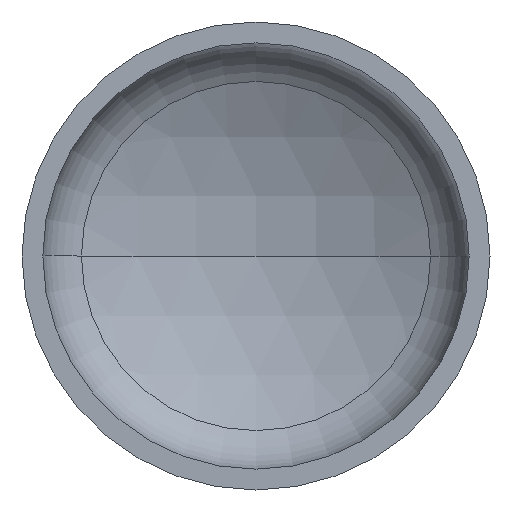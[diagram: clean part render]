
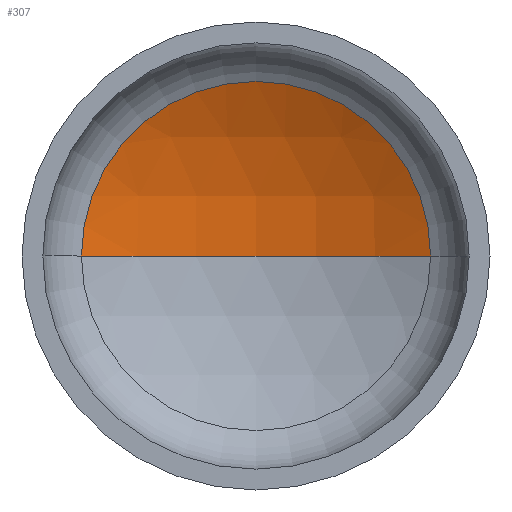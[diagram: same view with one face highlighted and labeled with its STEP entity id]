
A CAD part, front view. The second image highlights one B-rep face of the part: STEP entity #307.
In plain terms, the highlighted spherical face has radius 1760 mm.
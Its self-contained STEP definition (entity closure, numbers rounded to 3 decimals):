
#9 = AXIS2_PLACEMENT_3D ( 'NONE', #91, #398, #144 ) ;
#12 = VERTEX_POINT ( 'NONE', #246 ) ;
#22 = AXIS2_PLACEMENT_3D ( 'NONE', #197, #216, #207 ) ;
#24 = EDGE_LOOP ( 'NONE', ( #156, #155, #124 ) ) ;
#30 = AXIS2_PLACEMENT_3D ( 'NONE', #298, #255, #385 ) ;
#63 = SPHERICAL_SURFACE ( 'NONE', #9, 1760. ) ;
#82 = VERTEX_POINT ( 'NONE', #192 ) ;
#91 = CARTESIAN_POINT ( 'NONE',  ( 0., -1156.247, 0. ) ) ;
#103 = EDGE_CURVE ( 'NONE', #176, #12, #323, .T. ) ;
#117 = DIRECTION ( 'NONE',  ( 0., 0., 1. ) ) ;
#124 = ORIENTED_EDGE ( 'NONE', *, *, #103, .T. ) ;
#136 = EDGE_CURVE ( 'NONE', #82, #176, #383, .T. ) ;
#144 = DIRECTION ( 'NONE',  ( -1., 0., 0. ) ) ;
#155 = ORIENTED_EDGE ( 'NONE', *, *, #136, .T. ) ;
#156 = ORIENTED_EDGE ( 'NONE', *, *, #347, .F. ) ;
#176 = VERTEX_POINT ( 'NONE', #251 ) ;
#192 = CARTESIAN_POINT ( 'NONE',  ( 0., 603.753, 0. ) ) ;
#197 = CARTESIAN_POINT ( 'NONE',  ( 0., -1156.247, 0. ) ) ;
#207 = DIRECTION ( 'NONE',  ( -1., 0., 0. ) ) ;
#216 = DIRECTION ( 'NONE',  ( 0., 0., -1. ) ) ;
#246 = CARTESIAN_POINT ( 'NONE',  ( -820.507, 400.791, 0. ) ) ;
#251 = CARTESIAN_POINT ( 'NONE',  ( 820.507, 400.791, 0. ) ) ;
#253 = DIRECTION ( 'NONE',  ( 1., 0., 0. ) ) ;
#255 = DIRECTION ( 'NONE',  ( 0., -1., 0. ) ) ;
#298 = CARTESIAN_POINT ( 'NONE',  ( 0., 400.791, 0. ) ) ;
#307 = ADVANCED_FACE ( 'NONE', ( #311 ), #63, .F. ) ;
#311 = FACE_OUTER_BOUND ( 'NONE', #24, .T. ) ;
#323 = CIRCLE ( 'NONE', #30, 820.507 ) ;
#347 = EDGE_CURVE ( 'NONE', #82, #12, #365, .T. ) ;
#365 = CIRCLE ( 'NONE', #374, 1760. ) ;
#374 = AXIS2_PLACEMENT_3D ( 'NONE', #407, #117, #253 ) ;
#383 = CIRCLE ( 'NONE', #22, 1760. ) ;
#385 = DIRECTION ( 'NONE',  ( 1., 0., 0. ) ) ;
#398 = DIRECTION ( 'NONE',  ( 0., 0., -1. ) ) ;
#407 = CARTESIAN_POINT ( 'NONE',  ( 0., -1156.247, 0. ) ) ;
